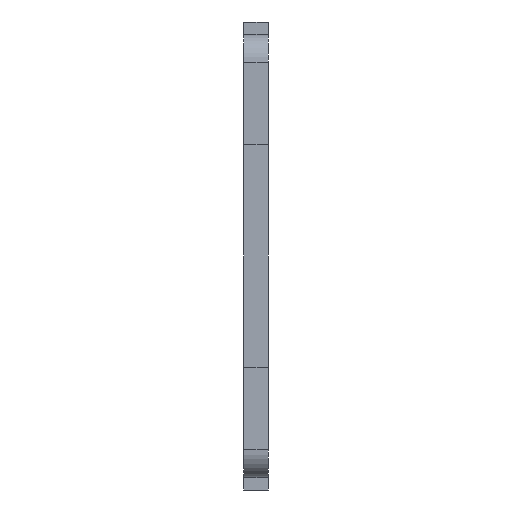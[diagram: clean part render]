
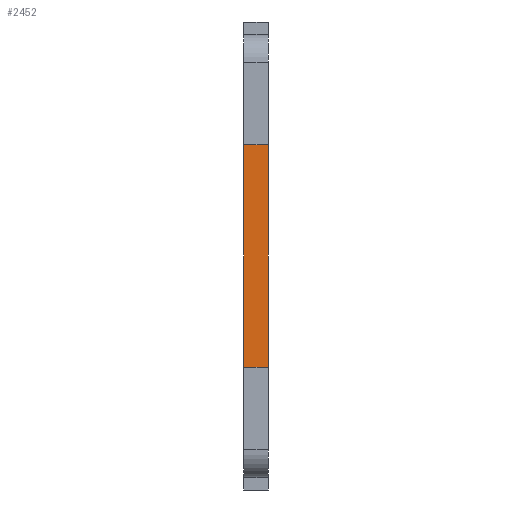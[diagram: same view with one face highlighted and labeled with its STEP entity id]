
A CAD part, left-side view. The second image highlights one B-rep face of the part: STEP entity #2452.
In plain terms, the highlighted planar face has unit normal (-1, 0, 0).
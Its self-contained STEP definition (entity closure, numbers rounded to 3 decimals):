
#88 = AXIS2_PLACEMENT_3D ( 'NONE', #472, #2398, #240 ) ;
#208 = FACE_OUTER_BOUND ( 'NONE', #2572, .T. ) ;
#240 = DIRECTION ( 'NONE',  ( 0., 0., -1. ) ) ;
#270 = VECTOR ( 'NONE', #439, 1000. ) ;
#400 = CARTESIAN_POINT ( 'NONE',  ( -94., 2., -29. ) ) ;
#409 = ORIENTED_EDGE ( 'NONE', *, *, #1823, .F. ) ;
#439 = DIRECTION ( 'NONE',  ( 0., 0., -1. ) ) ;
#472 = CARTESIAN_POINT ( 'NONE',  ( -94., 2., -29. ) ) ;
#478 = CARTESIAN_POINT ( 'NONE',  ( -94., 2., -13.8 ) ) ;
#575 = VERTEX_POINT ( 'NONE', #581 ) ;
#581 = CARTESIAN_POINT ( 'NONE',  ( -94., -1., 13.8 ) ) ;
#635 = CARTESIAN_POINT ( 'NONE',  ( -94., 2., 13.8 ) ) ;
#804 = CARTESIAN_POINT ( 'NONE',  ( -94., 2., -13.8 ) ) ;
#961 = LINE ( 'NONE', #1894, #1405 ) ;
#1236 = ORIENTED_EDGE ( 'NONE', *, *, #2820, .F. ) ;
#1405 = VECTOR ( 'NONE', #1438, 1000. ) ;
#1438 = DIRECTION ( 'NONE',  ( 0., 1., 0. ) ) ;
#1590 = EDGE_CURVE ( 'NONE', #2147, #2856, #2824, .T. ) ;
#1728 = ORIENTED_EDGE ( 'NONE', *, *, #2436, .T. ) ;
#1823 = EDGE_CURVE ( 'NONE', #2147, #3039, #2755, .T. ) ;
#1894 = CARTESIAN_POINT ( 'NONE',  ( -94., 2., 13.8 ) ) ;
#2085 = LINE ( 'NONE', #3040, #270 ) ;
#2147 = VERTEX_POINT ( 'NONE', #804 ) ;
#2152 = PLANE ( 'NONE',  #88 ) ;
#2260 = VECTOR ( 'NONE', #2324, 1000. ) ;
#2324 = DIRECTION ( 'NONE',  ( 0., 0., 1. ) ) ;
#2398 = DIRECTION ( 'NONE',  ( 1., 0., 0. ) ) ;
#2436 = EDGE_CURVE ( 'NONE', #575, #3039, #961, .T. ) ;
#2452 = ADVANCED_FACE ( 'NONE', ( #208 ), #2152, .F. ) ;
#2572 = EDGE_LOOP ( 'NONE', ( #1236, #1728, #409, #2720 ) ) ;
#2720 = ORIENTED_EDGE ( 'NONE', *, *, #1590, .T. ) ;
#2744 = VECTOR ( 'NONE', #3097, 1000. ) ;
#2755 = LINE ( 'NONE', #400, #2260 ) ;
#2820 = EDGE_CURVE ( 'NONE', #575, #2856, #2085, .T. ) ;
#2824 = LINE ( 'NONE', #478, #2744 ) ;
#2856 = VERTEX_POINT ( 'NONE', #2864 ) ;
#2864 = CARTESIAN_POINT ( 'NONE',  ( -94., -1., -13.8 ) ) ;
#3039 = VERTEX_POINT ( 'NONE', #635 ) ;
#3040 = CARTESIAN_POINT ( 'NONE',  ( -94., -1., 29. ) ) ;
#3097 = DIRECTION ( 'NONE',  ( 0., -1., 0. ) ) ;
